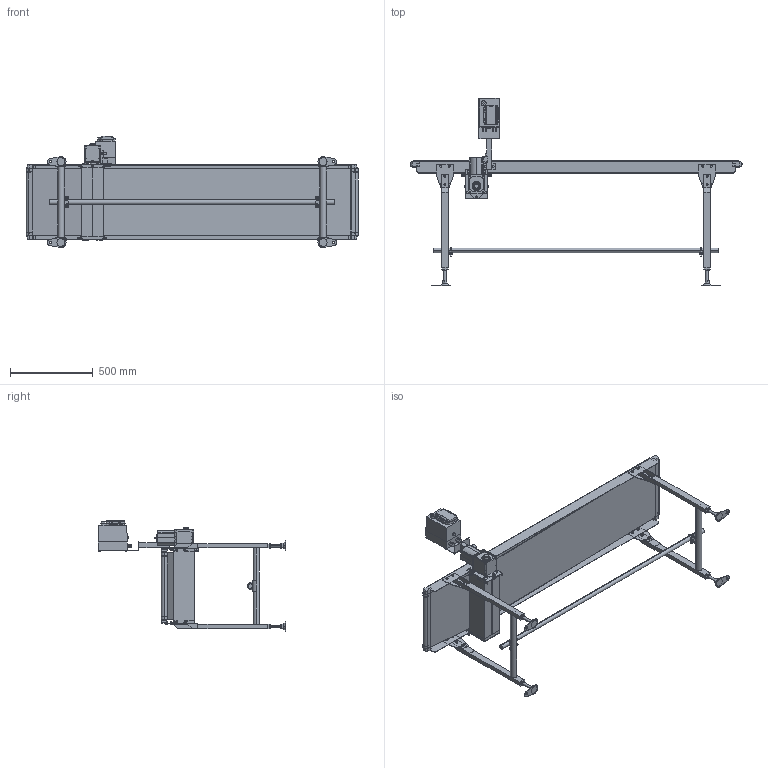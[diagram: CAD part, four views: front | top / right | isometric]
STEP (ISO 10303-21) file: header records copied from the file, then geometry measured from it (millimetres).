
FILE_DESCRIPTION (( 'STEP AP214' ), '1' );
FILE_NAME ('FSDHS-400-2000-L.STEP', '2023-04-20T23:38:10', ( '' ), ( '' ), 'SwSTEP 2.0', 'SolidWorks 2017', '' );
FILE_SCHEMA (( 'AUTOMOTIVE_DESIGN' ));
Length unit declared in the file: millimetre
Products named in the file (1): FSDHS-400-2000-L
Bounding box: 2001.4 x 1131 x 669.99 mm (x, y, z)
Volume: 23625947.8 mm3; surface area: 7839273.9 mm2
Topology: 48 solids, 54 shells, 2266 faces, 5572 edges, 3646 vertices
Faces by surface type: plane 1470, cylinder 733, cone 45, bspline 14, torus 4
Entity records: 94319 total; most frequent: CARTESIAN_POINT 13679, DIRECTION 11636, ORIENTED_EDGE 11124, EDGE_CURVE 5562, AXIS2_PLACEMENT_3D 3894, LINE 3848, VECTOR 3848, VERTEX_POINT 3646
